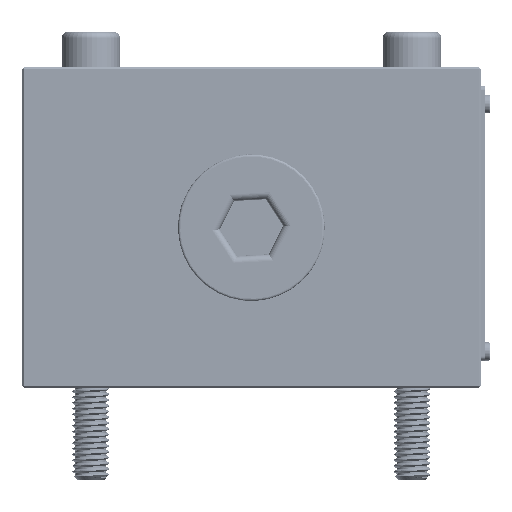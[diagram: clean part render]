
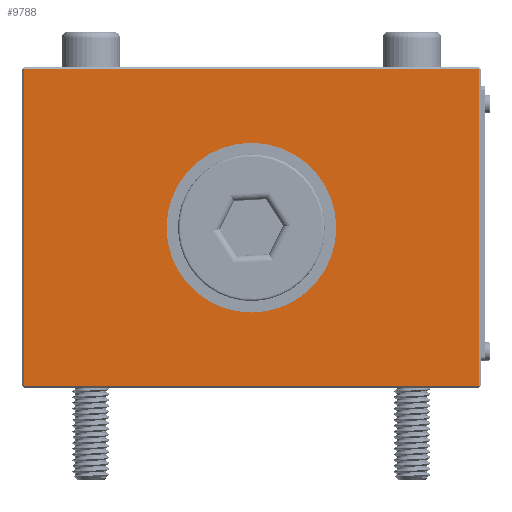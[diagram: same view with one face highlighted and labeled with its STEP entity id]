
A CAD part, front view. The second image highlights one B-rep face of the part: STEP entity #9788.
In plain terms, the highlighted planar face has unit normal (0, -1, 0).
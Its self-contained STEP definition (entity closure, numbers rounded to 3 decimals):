
#591=CIRCLE('',#12580,18.5);
#1032=PLANE('',#12581);
#1420=LINE('',#63745,#1892);
#1421=LINE('',#63748,#1893);
#1422=LINE('',#63750,#1894);
#1423=LINE('',#63752,#1895);
#1892=VECTOR('',#14276,1.);
#1893=VECTOR('',#14277,1.);
#1894=VECTOR('',#14278,1.);
#1895=VECTOR('',#14279,1.);
#3093=EDGE_LOOP('',(#5141,#5142,#5143,#5144));
#3094=EDGE_LOOP('',(#5145));
#5141=ORIENTED_EDGE('',*,*,#8004,.T.);
#5142=ORIENTED_EDGE('',*,*,#8005,.T.);
#5143=ORIENTED_EDGE('',*,*,#8006,.T.);
#5144=ORIENTED_EDGE('',*,*,#8007,.T.);
#5145=ORIENTED_EDGE('',*,*,#8008,.T.);
#8004=EDGE_CURVE('',#11443,#11444,#1420,.T.);
#8005=EDGE_CURVE('',#11444,#11445,#1421,.T.);
#8006=EDGE_CURVE('',#11445,#11446,#1422,.T.);
#8007=EDGE_CURVE('',#11446,#11443,#1423,.T.);
#8008=EDGE_CURVE('',#11447,#11447,#591,.T.);
#9788=ADVANCED_FACE('',(#10687,#10688),#1032,.T.);
#10687=FACE_BOUND('',#3093,.T.);
#10688=FACE_BOUND('',#3094,.T.);
#11443=VERTEX_POINT('',#63746);
#11444=VERTEX_POINT('',#63747);
#11445=VERTEX_POINT('',#63749);
#11446=VERTEX_POINT('',#63751);
#11447=VERTEX_POINT('',#63754);
#12580=AXIS2_PLACEMENT_3D('',#63753,#14280,#14281);
#12581=AXIS2_PLACEMENT_3D('',#63755,#14282,#14283);
#14276=DIRECTION('',(1.,0.,0.));
#14277=DIRECTION('',(0.,0.,1.));
#14278=DIRECTION('',(-1.,0.,0.));
#14279=DIRECTION('',(0.,0.,-1.));
#14280=DIRECTION('',(0.,1.,0.));
#14281=DIRECTION('',(0.,0.,1.));
#14282=DIRECTION('',(0.,-1.,0.));
#14283=DIRECTION('',(0.,0.,1.));
#63745=CARTESIAN_POINT('',(57.801,-126.308,-34.5));
#63746=CARTESIAN_POINT('',(-41.699,-126.308,-34.5));
#63747=CARTESIAN_POINT('',(57.301,-126.308,-34.5));
#63748=CARTESIAN_POINT('',(57.301,-126.308,35.));
#63749=CARTESIAN_POINT('',(57.301,-126.308,34.5));
#63750=CARTESIAN_POINT('',(57.801,-126.308,34.5));
#63751=CARTESIAN_POINT('',(-41.699,-126.308,34.5));
#63752=CARTESIAN_POINT('',(-41.699,-126.308,35.));
#63753=CARTESIAN_POINT('',(7.801,-126.308,0.));
#63754=CARTESIAN_POINT('',(7.801,-126.308,18.5));
#63755=CARTESIAN_POINT('',(57.801,-126.308,35.));
